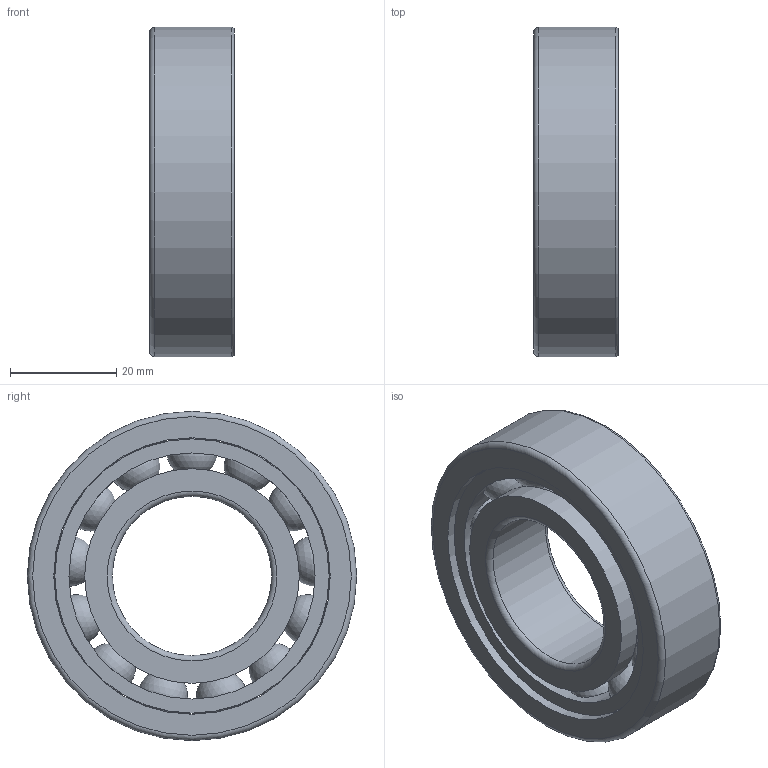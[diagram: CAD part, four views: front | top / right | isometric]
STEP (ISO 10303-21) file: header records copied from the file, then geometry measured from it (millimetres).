
FILE_DESCRIPTION(/* description */ (''),/* implementation_level */ '2;1');
FILE_NAME(/* name */ 'S_6206_TA.step',/* time_stamp */ '2013-03-06T14:49:26+01:00',/* author */ ('Marian'),/* organization */ ('GMN'),/* preprocessor_version */ 'ST-DEVELOPER v11',/* originating_system */ 'SIEMENS UGS NX 6.0',/* authorisation */ '');
FILE_SCHEMA (('CONFIG_CONTROL_DESIGN'));
Length unit declared in the file: millimetre
Products named in the file (1): S_6206_TA
Bounding box: 16 x 62 x 62 mm (x, y, z)
Volume: 27529.8 mm3; surface area: 19667.4 mm2
Topology: 16 solids, 16 shells, 46 faces, 112 edges, 72 vertices
Faces by surface type: cylinder 20, sphere 13, torus 6, plane 6, cone 1
Full cylindrical faces by diameter (mm): 9.725 x13, 30 x1, 40.4 x2, 46.325 x1, 51.65 x1, 52.05 x1, 62 x1
Entity records: 1460 total; most frequent: CARTESIAN_POINT 594, DIRECTION 134, FACE_BOUND 105, EDGE_LOOP 92, ORIENTED_EDGE 92, AXIS2_PLACEMENT_3D 67, VERTEX_POINT 59, EDGE_CURVE 46
